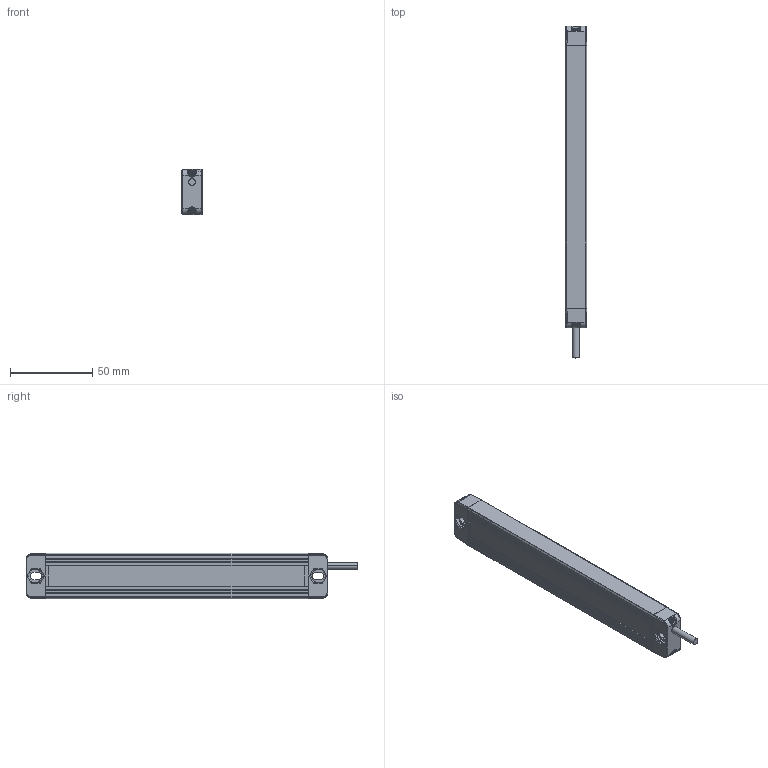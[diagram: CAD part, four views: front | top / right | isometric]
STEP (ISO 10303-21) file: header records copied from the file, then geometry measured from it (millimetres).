
FILE_DESCRIPTION((''),'2;1');
FILE_NAME('EB13-0320_ASM','2021-07-12T16:48:22',('18720616900'),(''),'CREO PARAMETRIC BY PTC INC, 2019010','CREO PARAMETRIC BY PTC INC, 2019010','');
FILE_SCHEMA(('CONFIG_CONTROL_DESIGN'));
Products named in the file (7): EB1300; 000; 0002; 0004; EB13-0320_ASM
Assembly tree (9 placements, depth 2):
  EB13-0320_ASM
    EB1300
    000
    0002
    000
    0004  x4
    000
Bounding box: 13 x 202.4 x 28 mm (x, y, z)
Volume: 67816.8 mm3; surface area: 26320.6 mm2
Topology: 9 solids, 27 shells, 1032 faces, 3520 edges, 2523 vertices
Faces by surface type: cylinder 544, plane 295, bspline 118, torus 40, sphere 31, cone 4
Entity records: 52594 total; most frequent: CARTESIAN_POINT 37957, ORIENTED_EDGE 3370, DIRECTION 2501, EDGE_CURVE 1685, VERTEX_POINT 1150, AXIS2_PLACEMENT_3D 849, VECTOR 803, LINE 803
